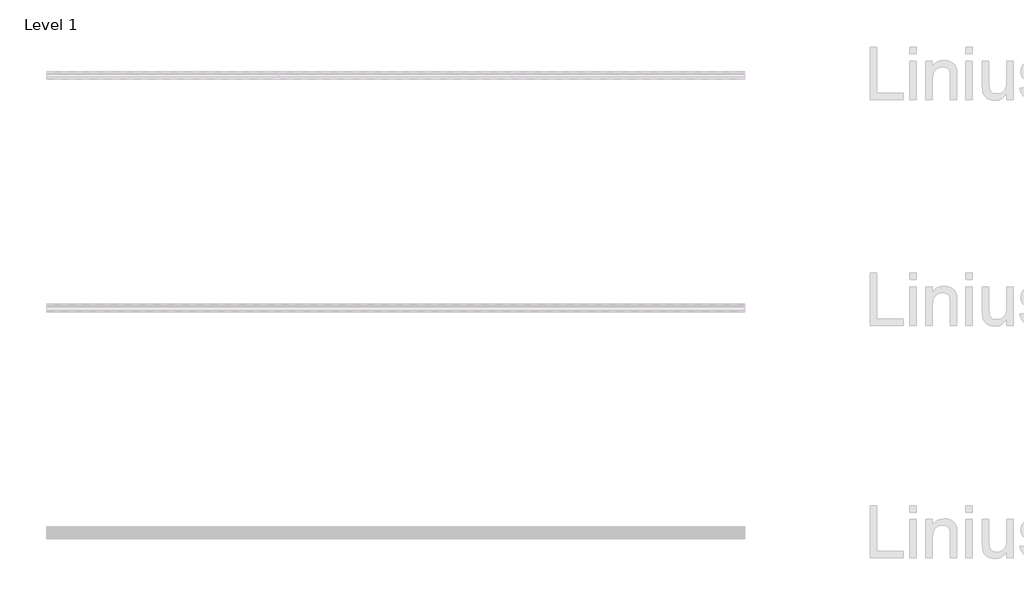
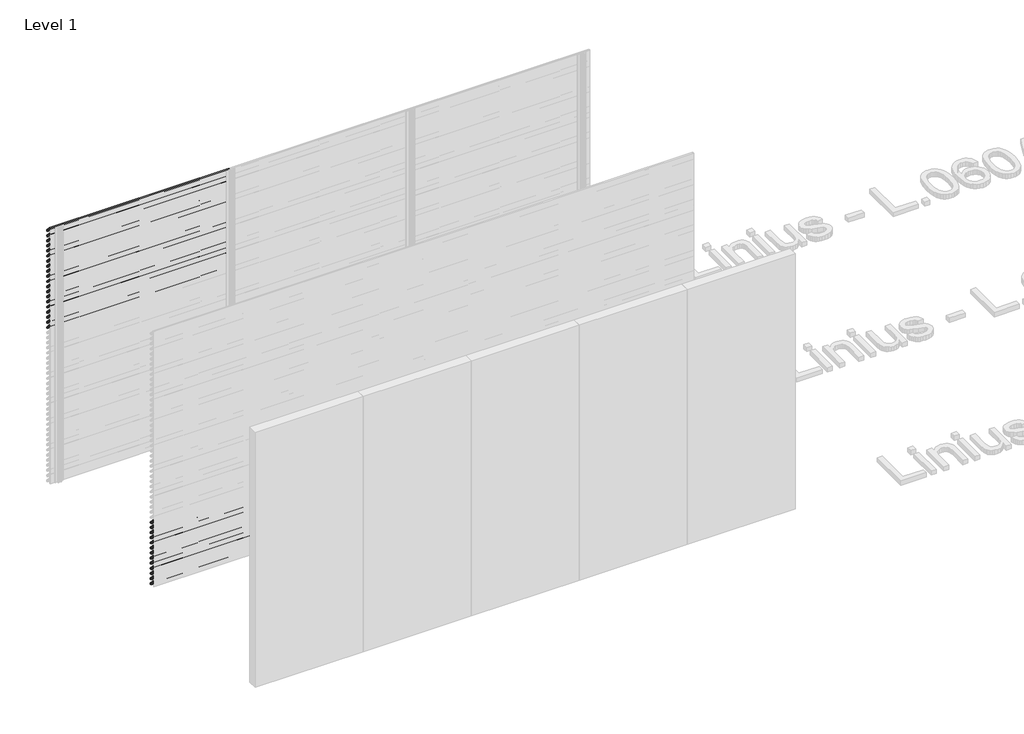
# One storey, part 33 of 153: 33 proxies.
"""IFC4 building model written with IfcOpenShell, lengths in millimetres."""

from ifc_helpers import new_model, si_unit, point, frame, frame_2d, origin, place, context, project, spatial, polyline, circle_curve, trimmed, segment, composite_curve, outline, extrude, element, save

model = new_model("IFC4")

# Units and contexts
model_context = context("Model", 3, world=origin())
ifc_project = project(units=[si_unit("LENGTHUNIT", "METRE", prefix="MILLI")], contexts=[model_context])

# Site, building, storey
site = spatial("IfcSite", under=ifc_project)
building = spatial("IfcBuilding", under=site)
storey = spatial("IfcBuildingStorey", under=building, Name="Level 1", Elevation=0.0)

# Proxies
placement = place(None, origin())
element("IfcBuildingElementProxy", 1, Name="Wall Sweeps", at=placement, inside=storey, context=model_context, shape_type="SweptSolid", body=[
    extrude(outline(composite_curve([segment(polyline([(6989.0270068, 3000.0), (7003.8471842, 2998.7034025), (7053.0270068, 2945.0102749), (7053.0270068, 2933.6108187)]), True, "CONTINUOUS"), segment(trimmed(circle_curve(frame_2d((7049.7613584, 2933.897153)), 3.2781774), [point((7053.0270068, 2933.6108187))], [point((7050.4369373, 2930.6893438))], False, "CARTESIAN"), True, "CONTINUOUS"), segment(polyline([(7050.4369373, 2930.6893438), (7038.1625655, 2931.6282758), (6989.0270068, 2985.2730773), (6989.0270068, 3000.0)]), True, "CONTINUOUS")], self_intersect=False), holes=[composite_curve([segment(polyline([(7003.1351705, 2997.2599659), (6990.5270068, 2998.3630372), (6990.5270068, 2985.856213), (7038.8681968, 2933.0786805), (7050.3042474, 2932.2038762)]), True, "CONTINUOUS"), segment(trimmed(circle_curve(frame_2d((7049.7613584, 2933.897153)), 1.7781774), [point((7050.3042474, 2932.2038762))], [point((7051.5270068, 2933.6864389))], True, "CARTESIAN"), True, "CONTINUOUS"), segment(polyline([(7051.5270068, 2933.6864389), (7051.5270068, 2944.4271392), (7003.1351705, 2997.2599659)]), True, "CONTINUOUS")], self_intersect=False)]), frame((44966.6208097, 0.0, 0.0), z_axis=(1.0, 0.0, 0.0), x_axis=(0.0, 1.0, 0.0)), (0.0, 0.0, 1.0), 2000.0000001),
])
element("IfcBuildingElementProxy", 2, Name="Wall Sweeps", at=placement, inside=storey, context=model_context, shape_type="SweptSolid", body=[
    extrude(outline(composite_curve([segment(polyline([(6989.0270068, 2940.0), (7003.8471842, 2938.7034025), (7053.0270068, 2885.0102749), (7053.0270068, 2873.6108187)]), True, "CONTINUOUS"), segment(trimmed(circle_curve(frame_2d((7049.7613584, 2873.897153)), 3.2781774), [point((7053.0270068, 2873.6108187))], [point((7050.4369373, 2870.6893438))], False, "CARTESIAN"), True, "CONTINUOUS"), segment(polyline([(7050.4369373, 2870.6893438), (7038.1625655, 2871.6282758), (6989.0270068, 2925.2730773), (6989.0270068, 2940.0)]), True, "CONTINUOUS")], self_intersect=False), holes=[composite_curve([segment(polyline([(7003.1351705, 2937.2599659), (6990.5270068, 2938.3630372), (6990.5270068, 2925.856213), (7038.8681968, 2873.0786805), (7050.3042474, 2872.2038762)]), True, "CONTINUOUS"), segment(trimmed(circle_curve(frame_2d((7049.7613584, 2873.897153)), 1.7781774), [point((7050.3042474, 2872.2038762))], [point((7051.5270068, 2873.6864389))], True, "CARTESIAN"), True, "CONTINUOUS"), segment(polyline([(7051.5270068, 2873.6864389), (7051.5270068, 2884.4271392), (7003.1351705, 2937.2599659)]), True, "CONTINUOUS")], self_intersect=False)]), frame((44966.6208097, 0.0, 0.0), z_axis=(1.0, 0.0, 0.0), x_axis=(0.0, 1.0, 0.0)), (0.0, 0.0, 1.0), 2000.0000001),
])
element("IfcBuildingElementProxy", 3, Name="Wall Sweeps", at=placement, inside=storey, context=model_context, shape_type="SweptSolid", body=[
    extrude(outline(composite_curve([segment(polyline([(6989.0270068, 2880.0), (7003.8471842, 2878.7034025), (7053.0270068, 2825.0102749), (7053.0270068, 2813.6108187)]), True, "CONTINUOUS"), segment(trimmed(circle_curve(frame_2d((7049.7613584, 2813.897153)), 3.2781774), [point((7053.0270068, 2813.6108187))], [point((7050.4369373, 2810.6893438))], False, "CARTESIAN"), True, "CONTINUOUS"), segment(polyline([(7050.4369373, 2810.6893438), (7038.1625655, 2811.6282758), (6989.0270068, 2865.2730773), (6989.0270068, 2880.0)]), True, "CONTINUOUS")], self_intersect=False), holes=[composite_curve([segment(polyline([(7003.1351705, 2877.2599659), (6990.5270068, 2878.3630372), (6990.5270068, 2865.856213), (7038.8681968, 2813.0786805), (7050.3042474, 2812.2038762)]), True, "CONTINUOUS"), segment(trimmed(circle_curve(frame_2d((7049.7613584, 2813.897153)), 1.7781774), [point((7050.3042474, 2812.2038762))], [point((7051.5270068, 2813.6864389))], True, "CARTESIAN"), True, "CONTINUOUS"), segment(polyline([(7051.5270068, 2813.6864389), (7051.5270068, 2824.4271392), (7003.1351705, 2877.2599659)]), True, "CONTINUOUS")], self_intersect=False)]), frame((44966.6208097, 0.0, 0.0), z_axis=(1.0, 0.0, 0.0), x_axis=(0.0, 1.0, 0.0)), (0.0, 0.0, 1.0), 2000.0000001),
])
element("IfcBuildingElementProxy", 4, Name="Wall Sweeps", at=placement, inside=storey, context=model_context, shape_type="SweptSolid", body=[
    extrude(outline(composite_curve([segment(polyline([(6989.0270068, 2820.0), (7003.8471842, 2818.7034025), (7053.0270068, 2765.0102749), (7053.0270068, 2753.6108187)]), True, "CONTINUOUS"), segment(trimmed(circle_curve(frame_2d((7049.7613584, 2753.897153)), 3.2781774), [point((7053.0270068, 2753.6108187))], [point((7050.4369373, 2750.6893438))], False, "CARTESIAN"), True, "CONTINUOUS"), segment(polyline([(7050.4369373, 2750.6893438), (7038.1625655, 2751.6282758), (6989.0270068, 2805.2730773), (6989.0270068, 2820.0)]), True, "CONTINUOUS")], self_intersect=False), holes=[composite_curve([segment(polyline([(7003.1351705, 2817.2599659), (6990.5270068, 2818.3630372), (6990.5270068, 2805.856213), (7038.8681968, 2753.0786805), (7050.3042474, 2752.2038762)]), True, "CONTINUOUS"), segment(trimmed(circle_curve(frame_2d((7049.7613584, 2753.897153)), 1.7781774), [point((7050.3042474, 2752.2038762))], [point((7051.5270068, 2753.6864389))], True, "CARTESIAN"), True, "CONTINUOUS"), segment(polyline([(7051.5270068, 2753.6864389), (7051.5270068, 2764.4271392), (7003.1351705, 2817.2599659)]), True, "CONTINUOUS")], self_intersect=False)]), frame((44966.6208097, 0.0, 0.0), z_axis=(1.0, 0.0, 0.0), x_axis=(0.0, 1.0, 0.0)), (0.0, 0.0, 1.0), 2000.0000001),
])
element("IfcBuildingElementProxy", 5, Name="Wall Sweeps", at=placement, inside=storey, context=model_context, shape_type="SweptSolid", body=[
    extrude(outline(composite_curve([segment(polyline([(6989.0270068, 2760.0), (7003.8471842, 2758.7034025), (7053.0270068, 2705.0102749), (7053.0270068, 2693.6108187)]), True, "CONTINUOUS"), segment(trimmed(circle_curve(frame_2d((7049.7613584, 2693.897153)), 3.2781774), [point((7053.0270068, 2693.6108187))], [point((7050.4369373, 2690.6893438))], False, "CARTESIAN"), True, "CONTINUOUS"), segment(polyline([(7050.4369373, 2690.6893438), (7038.1625655, 2691.6282758), (6989.0270068, 2745.2730773), (6989.0270068, 2760.0)]), True, "CONTINUOUS")], self_intersect=False), holes=[composite_curve([segment(polyline([(7003.1351705, 2757.2599659), (6990.5270068, 2758.3630372), (6990.5270068, 2745.856213), (7038.8681968, 2693.0786805), (7050.3042474, 2692.2038762)]), True, "CONTINUOUS"), segment(trimmed(circle_curve(frame_2d((7049.7613584, 2693.897153)), 1.7781774), [point((7050.3042474, 2692.2038762))], [point((7051.5270068, 2693.6864389))], True, "CARTESIAN"), True, "CONTINUOUS"), segment(polyline([(7051.5270068, 2693.6864389), (7051.5270068, 2704.4271392), (7003.1351705, 2757.2599659)]), True, "CONTINUOUS")], self_intersect=False)]), frame((44966.6208097, 0.0, 0.0), z_axis=(1.0, 0.0, 0.0), x_axis=(0.0, 1.0, 0.0)), (0.0, 0.0, 1.0), 2000.0000001),
])
element("IfcBuildingElementProxy", 6, Name="Wall Sweeps", at=placement, inside=storey, context=model_context, shape_type="SweptSolid", body=[
    extrude(outline(composite_curve([segment(polyline([(6989.0270068, 2700.0), (7003.8471842, 2698.7034025), (7053.0270068, 2645.0102749), (7053.0270068, 2633.6108187)]), True, "CONTINUOUS"), segment(trimmed(circle_curve(frame_2d((7049.7613584, 2633.897153)), 3.2781774), [point((7053.0270068, 2633.6108187))], [point((7050.4369373, 2630.6893438))], False, "CARTESIAN"), True, "CONTINUOUS"), segment(polyline([(7050.4369373, 2630.6893438), (7038.1625655, 2631.6282758), (6989.0270068, 2685.2730773), (6989.0270068, 2700.0)]), True, "CONTINUOUS")], self_intersect=False), holes=[composite_curve([segment(polyline([(7003.1351705, 2697.2599659), (6990.5270068, 2698.3630372), (6990.5270068, 2685.856213), (7038.8681968, 2633.0786805), (7050.3042474, 2632.2038762)]), True, "CONTINUOUS"), segment(trimmed(circle_curve(frame_2d((7049.7613584, 2633.897153)), 1.7781774), [point((7050.3042474, 2632.2038762))], [point((7051.5270068, 2633.6864389))], True, "CARTESIAN"), True, "CONTINUOUS"), segment(polyline([(7051.5270068, 2633.6864389), (7051.5270068, 2644.4271392), (7003.1351705, 2697.2599659)]), True, "CONTINUOUS")], self_intersect=False)]), frame((44966.6208097, 0.0, 0.0), z_axis=(1.0, 0.0, 0.0), x_axis=(0.0, 1.0, 0.0)), (0.0, 0.0, 1.0), 2000.0000001),
])
element("IfcBuildingElementProxy", 7, Name="Wall Sweeps", at=placement, inside=storey, context=model_context, shape_type="SweptSolid", body=[
    extrude(outline(composite_curve([segment(polyline([(6989.0270068, 2640.0), (7003.8471842, 2638.7034025), (7053.0270068, 2585.0102749), (7053.0270068, 2573.6108187)]), True, "CONTINUOUS"), segment(trimmed(circle_curve(frame_2d((7049.7613584, 2573.897153)), 3.2781774), [point((7053.0270068, 2573.6108187))], [point((7050.4369373, 2570.6893438))], False, "CARTESIAN"), True, "CONTINUOUS"), segment(polyline([(7050.4369373, 2570.6893438), (7038.1625655, 2571.6282758), (6989.0270068, 2625.2730773), (6989.0270068, 2640.0)]), True, "CONTINUOUS")], self_intersect=False), holes=[composite_curve([segment(polyline([(7003.1351705, 2637.2599659), (6990.5270068, 2638.3630372), (6990.5270068, 2625.856213), (7038.8681968, 2573.0786805), (7050.3042474, 2572.2038762)]), True, "CONTINUOUS"), segment(trimmed(circle_curve(frame_2d((7049.7613584, 2573.897153)), 1.7781774), [point((7050.3042474, 2572.2038762))], [point((7051.5270068, 2573.6864389))], True, "CARTESIAN"), True, "CONTINUOUS"), segment(polyline([(7051.5270068, 2573.6864389), (7051.5270068, 2584.4271392), (7003.1351705, 2637.2599659)]), True, "CONTINUOUS")], self_intersect=False)]), frame((44966.6208097, 0.0, 0.0), z_axis=(1.0, 0.0, 0.0), x_axis=(0.0, 1.0, 0.0)), (0.0, 0.0, 1.0), 2000.0000001),
])
element("IfcBuildingElementProxy", 8, Name="Wall Sweeps", at=placement, inside=storey, context=model_context, shape_type="SweptSolid", body=[
    extrude(outline(composite_curve([segment(polyline([(6989.0270068, 2580.0), (7003.8471842, 2578.7034025), (7053.0270068, 2525.0102749), (7053.0270068, 2513.6108187)]), True, "CONTINUOUS"), segment(trimmed(circle_curve(frame_2d((7049.7613584, 2513.897153)), 3.2781774), [point((7053.0270068, 2513.6108187))], [point((7050.4369373, 2510.6893438))], False, "CARTESIAN"), True, "CONTINUOUS"), segment(polyline([(7050.4369373, 2510.6893438), (7038.1625655, 2511.6282758), (6989.0270068, 2565.2730773), (6989.0270068, 2580.0)]), True, "CONTINUOUS")], self_intersect=False), holes=[composite_curve([segment(polyline([(7003.1351705, 2577.2599659), (6990.5270068, 2578.3630372), (6990.5270068, 2565.856213), (7038.8681968, 2513.0786805), (7050.3042474, 2512.2038762)]), True, "CONTINUOUS"), segment(trimmed(circle_curve(frame_2d((7049.7613584, 2513.897153)), 1.7781774), [point((7050.3042474, 2512.2038762))], [point((7051.5270068, 2513.6864389))], True, "CARTESIAN"), True, "CONTINUOUS"), segment(polyline([(7051.5270068, 2513.6864389), (7051.5270068, 2524.4271392), (7003.1351705, 2577.2599659)]), True, "CONTINUOUS")], self_intersect=False)]), frame((44966.6208097, 0.0, 0.0), z_axis=(1.0, 0.0, 0.0), x_axis=(0.0, 1.0, 0.0)), (0.0, 0.0, 1.0), 2000.0000001),
])
element("IfcBuildingElementProxy", 9, Name="Wall Sweeps", at=placement, inside=storey, context=model_context, shape_type="SweptSolid", body=[
    extrude(outline(composite_curve([segment(polyline([(6989.0270068, 2520.0), (7003.8471842, 2518.7034025), (7053.0270068, 2465.0102749), (7053.0270068, 2453.6108187)]), True, "CONTINUOUS"), segment(trimmed(circle_curve(frame_2d((7049.7613584, 2453.897153)), 3.2781774), [point((7053.0270068, 2453.6108187))], [point((7050.4369373, 2450.6893438))], False, "CARTESIAN"), True, "CONTINUOUS"), segment(polyline([(7050.4369373, 2450.6893438), (7038.1625655, 2451.6282758), (6989.0270068, 2505.2730773), (6989.0270068, 2520.0)]), True, "CONTINUOUS")], self_intersect=False), holes=[composite_curve([segment(polyline([(7003.1351705, 2517.2599659), (6990.5270068, 2518.3630372), (6990.5270068, 2505.856213), (7038.8681968, 2453.0786805), (7050.3042474, 2452.2038762)]), True, "CONTINUOUS"), segment(trimmed(circle_curve(frame_2d((7049.7613584, 2453.897153)), 1.7781774), [point((7050.3042474, 2452.2038762))], [point((7051.5270068, 2453.6864389))], True, "CARTESIAN"), True, "CONTINUOUS"), segment(polyline([(7051.5270068, 2453.6864389), (7051.5270068, 2464.4271392), (7003.1351705, 2517.2599659)]), True, "CONTINUOUS")], self_intersect=False)]), frame((44966.6208097, 0.0, 0.0), z_axis=(1.0, 0.0, 0.0), x_axis=(0.0, 1.0, 0.0)), (0.0, 0.0, 1.0), 2000.0000001),
])
element("IfcBuildingElementProxy", 10, Name="Wall Sweeps", at=placement, inside=storey, context=model_context, shape_type="SweptSolid", body=[
    extrude(outline(composite_curve([segment(polyline([(6989.0270068, 2460.0), (7003.8471842, 2458.7034025), (7053.0270068, 2405.0102749), (7053.0270068, 2393.6108187)]), True, "CONTINUOUS"), segment(trimmed(circle_curve(frame_2d((7049.7613584, 2393.897153)), 3.2781774), [point((7053.0270068, 2393.6108187))], [point((7050.4369373, 2390.6893438))], False, "CARTESIAN"), True, "CONTINUOUS"), segment(polyline([(7050.4369373, 2390.6893438), (7038.1625655, 2391.6282758), (6989.0270068, 2445.2730773), (6989.0270068, 2460.0)]), True, "CONTINUOUS")], self_intersect=False), holes=[composite_curve([segment(polyline([(7003.1351705, 2457.2599659), (6990.5270068, 2458.3630372), (6990.5270068, 2445.856213), (7038.8681968, 2393.0786805), (7050.3042474, 2392.2038762)]), True, "CONTINUOUS"), segment(trimmed(circle_curve(frame_2d((7049.7613584, 2393.897153)), 1.7781774), [point((7050.3042474, 2392.2038762))], [point((7051.5270068, 2393.6864389))], True, "CARTESIAN"), True, "CONTINUOUS"), segment(polyline([(7051.5270068, 2393.6864389), (7051.5270068, 2404.4271392), (7003.1351705, 2457.2599659)]), True, "CONTINUOUS")], self_intersect=False)]), frame((44966.6208097, 0.0, 0.0), z_axis=(1.0, 0.0, 0.0), x_axis=(0.0, 1.0, 0.0)), (0.0, 0.0, 1.0), 2000.0000001),
])
element("IfcBuildingElementProxy", 11, Name="Wall Sweeps", at=placement, inside=storey, context=model_context, shape_type="SweptSolid", body=[
    extrude(outline(composite_curve([segment(polyline([(6989.0270068, 2400.0), (7003.8471842, 2398.7034025), (7053.0270068, 2345.0102749), (7053.0270068, 2333.6108187)]), True, "CONTINUOUS"), segment(trimmed(circle_curve(frame_2d((7049.7613584, 2333.897153)), 3.2781774), [point((7053.0270068, 2333.6108187))], [point((7050.4369373, 2330.6893438))], False, "CARTESIAN"), True, "CONTINUOUS"), segment(polyline([(7050.4369373, 2330.6893438), (7038.1625655, 2331.6282758), (6989.0270068, 2385.2730773), (6989.0270068, 2400.0)]), True, "CONTINUOUS")], self_intersect=False), holes=[composite_curve([segment(polyline([(7003.1351705, 2397.2599659), (6990.5270068, 2398.3630372), (6990.5270068, 2385.856213), (7038.8681968, 2333.0786805), (7050.3042474, 2332.2038762)]), True, "CONTINUOUS"), segment(trimmed(circle_curve(frame_2d((7049.7613584, 2333.897153)), 1.7781774), [point((7050.3042474, 2332.2038762))], [point((7051.5270068, 2333.6864389))], True, "CARTESIAN"), True, "CONTINUOUS"), segment(polyline([(7051.5270068, 2333.6864389), (7051.5270068, 2344.4271392), (7003.1351705, 2397.2599659)]), True, "CONTINUOUS")], self_intersect=False)]), frame((44966.6208097, 0.0, 0.0), z_axis=(1.0, 0.0, 0.0), x_axis=(0.0, 1.0, 0.0)), (0.0, 0.0, 1.0), 2000.0000001),
])
element("IfcBuildingElementProxy", 12, Name="Wall Sweeps", at=placement, inside=storey, context=model_context, shape_type="SweptSolid", body=[
    extrude(outline(composite_curve([segment(polyline([(6989.0270068, 2340.0), (7003.8471842, 2338.7034025), (7053.0270068, 2285.0102749), (7053.0270068, 2273.6108187)]), True, "CONTINUOUS"), segment(trimmed(circle_curve(frame_2d((7049.7613584, 2273.897153)), 3.2781774), [point((7053.0270068, 2273.6108187))], [point((7050.4369373, 2270.6893438))], False, "CARTESIAN"), True, "CONTINUOUS"), segment(polyline([(7050.4369373, 2270.6893438), (7038.1625655, 2271.6282758), (6989.0270068, 2325.2730773), (6989.0270068, 2340.0)]), True, "CONTINUOUS")], self_intersect=False), holes=[composite_curve([segment(polyline([(7003.1351705, 2337.2599659), (6990.5270068, 2338.3630372), (6990.5270068, 2325.856213), (7038.8681968, 2273.0786805), (7050.3042474, 2272.2038762)]), True, "CONTINUOUS"), segment(trimmed(circle_curve(frame_2d((7049.7613584, 2273.897153)), 1.7781774), [point((7050.3042474, 2272.2038762))], [point((7051.5270068, 2273.6864389))], True, "CARTESIAN"), True, "CONTINUOUS"), segment(polyline([(7051.5270068, 2273.6864389), (7051.5270068, 2284.4271392), (7003.1351705, 2337.2599659)]), True, "CONTINUOUS")], self_intersect=False)]), frame((44966.6208097, 0.0, 0.0), z_axis=(1.0, 0.0, 0.0), x_axis=(0.0, 1.0, 0.0)), (0.0, 0.0, 1.0), 2000.0000001),
])
element("IfcBuildingElementProxy", 13, Name="Wall Sweeps", at=placement, inside=storey, context=model_context, shape_type="SweptSolid", body=[
    extrude(outline(composite_curve([segment(polyline([(6989.0270068, 2280.0), (7003.8471842, 2278.7034025), (7053.0270068, 2225.0102749), (7053.0270068, 2213.6108187)]), True, "CONTINUOUS"), segment(trimmed(circle_curve(frame_2d((7049.7613584, 2213.897153)), 3.2781774), [point((7053.0270068, 2213.6108187))], [point((7050.4369373, 2210.6893438))], False, "CARTESIAN"), True, "CONTINUOUS"), segment(polyline([(7050.4369373, 2210.6893438), (7038.1625655, 2211.6282758), (6989.0270068, 2265.2730773), (6989.0270068, 2280.0)]), True, "CONTINUOUS")], self_intersect=False), holes=[composite_curve([segment(polyline([(7003.1351705, 2277.2599659), (6990.5270068, 2278.3630372), (6990.5270068, 2265.856213), (7038.8681968, 2213.0786805), (7050.3042474, 2212.2038762)]), True, "CONTINUOUS"), segment(trimmed(circle_curve(frame_2d((7049.7613584, 2213.897153)), 1.7781774), [point((7050.3042474, 2212.2038762))], [point((7051.5270068, 2213.6864389))], True, "CARTESIAN"), True, "CONTINUOUS"), segment(polyline([(7051.5270068, 2213.6864389), (7051.5270068, 2224.4271392), (7003.1351705, 2277.2599659)]), True, "CONTINUOUS")], self_intersect=False)]), frame((44966.6208097, 0.0, 0.0), z_axis=(1.0, 0.0, 0.0), x_axis=(0.0, 1.0, 0.0)), (0.0, 0.0, 1.0), 2000.0000001),
])
element("IfcBuildingElementProxy", 14, Name="Wall Sweeps", at=placement, inside=storey, context=model_context, shape_type="SweptSolid", body=[
    extrude(outline(composite_curve([segment(polyline([(6989.0270068, 2220.0), (7003.8471842, 2218.7034025), (7053.0270068, 2165.0102749), (7053.0270068, 2153.6108187)]), True, "CONTINUOUS"), segment(trimmed(circle_curve(frame_2d((7049.7613584, 2153.897153)), 3.2781774), [point((7053.0270068, 2153.6108187))], [point((7050.4369373, 2150.6893438))], False, "CARTESIAN"), True, "CONTINUOUS"), segment(polyline([(7050.4369373, 2150.6893438), (7038.1625655, 2151.6282758), (6989.0270068, 2205.2730773), (6989.0270068, 2220.0)]), True, "CONTINUOUS")], self_intersect=False), holes=[composite_curve([segment(polyline([(7003.1351705, 2217.2599659), (6990.5270068, 2218.3630372), (6990.5270068, 2205.856213), (7038.8681968, 2153.0786805), (7050.3042474, 2152.2038762)]), True, "CONTINUOUS"), segment(trimmed(circle_curve(frame_2d((7049.7613584, 2153.897153)), 1.7781774), [point((7050.3042474, 2152.2038762))], [point((7051.5270068, 2153.6864389))], True, "CARTESIAN"), True, "CONTINUOUS"), segment(polyline([(7051.5270068, 2153.6864389), (7051.5270068, 2164.4271392), (7003.1351705, 2217.2599659)]), True, "CONTINUOUS")], self_intersect=False)]), frame((44966.6208097, 0.0, 0.0), z_axis=(1.0, 0.0, 0.0), x_axis=(0.0, 1.0, 0.0)), (0.0, 0.0, 1.0), 2000.0000001),
])
element("IfcBuildingElementProxy", 15, Name="Wall Sweeps", at=placement, inside=storey, context=model_context, shape_type="SweptSolid", body=[
    extrude(outline(composite_curve([segment(polyline([(6989.0270068, 2160.0), (7003.8471842, 2158.7034025), (7053.0270068, 2105.0102749), (7053.0270068, 2093.6108187)]), True, "CONTINUOUS"), segment(trimmed(circle_curve(frame_2d((7049.7613584, 2093.897153)), 3.2781774), [point((7053.0270068, 2093.6108187))], [point((7050.4369373, 2090.6893438))], False, "CARTESIAN"), True, "CONTINUOUS"), segment(polyline([(7050.4369373, 2090.6893438), (7038.1625655, 2091.6282758), (6989.0270068, 2145.2730773), (6989.0270068, 2160.0)]), True, "CONTINUOUS")], self_intersect=False), holes=[composite_curve([segment(polyline([(7003.1351705, 2157.2599659), (6990.5270068, 2158.3630372), (6990.5270068, 2145.856213), (7038.8681968, 2093.0786805), (7050.3042474, 2092.2038762)]), True, "CONTINUOUS"), segment(trimmed(circle_curve(frame_2d((7049.7613584, 2093.897153)), 1.7781774), [point((7050.3042474, 2092.2038762))], [point((7051.5270068, 2093.6864389))], True, "CARTESIAN"), True, "CONTINUOUS"), segment(polyline([(7051.5270068, 2093.6864389), (7051.5270068, 2104.4271392), (7003.1351705, 2157.2599659)]), True, "CONTINUOUS")], self_intersect=False)]), frame((44966.6208097, 0.0, 0.0), z_axis=(1.0, 0.0, 0.0), x_axis=(0.0, 1.0, 0.0)), (0.0, 0.0, 1.0), 2000.0000001),
])
element("IfcBuildingElementProxy", 16, Name="Wall Sweeps", at=placement, inside=storey, context=model_context, shape_type="SweptSolid", body=[
    extrude(outline(composite_curve([segment(polyline([(6989.0270068, 2100.0), (7003.8471842, 2098.7034025), (7053.0270068, 2045.0102749), (7053.0270068, 2033.6108187)]), True, "CONTINUOUS"), segment(trimmed(circle_curve(frame_2d((7049.7613584, 2033.897153)), 3.2781774), [point((7053.0270068, 2033.6108187))], [point((7050.4369373, 2030.6893438))], False, "CARTESIAN"), True, "CONTINUOUS"), segment(polyline([(7050.4369373, 2030.6893438), (7038.1625655, 2031.6282758), (6989.0270068, 2085.2730773), (6989.0270068, 2100.0)]), True, "CONTINUOUS")], self_intersect=False), holes=[composite_curve([segment(polyline([(7003.1351705, 2097.2599659), (6990.5270068, 2098.3630372), (6990.5270068, 2085.856213), (7038.8681968, 2033.0786805), (7050.3042474, 2032.2038762)]), True, "CONTINUOUS"), segment(trimmed(circle_curve(frame_2d((7049.7613584, 2033.897153)), 1.7781774), [point((7050.3042474, 2032.2038762))], [point((7051.5270068, 2033.6864389))], True, "CARTESIAN"), True, "CONTINUOUS"), segment(polyline([(7051.5270068, 2033.6864389), (7051.5270068, 2044.4271392), (7003.1351705, 2097.2599659)]), True, "CONTINUOUS")], self_intersect=False)]), frame((44966.6208097, 0.0, 0.0), z_axis=(1.0, 0.0, 0.0), x_axis=(0.0, 1.0, 0.0)), (0.0, 0.0, 1.0), 2000.0000001),
])
element("IfcBuildingElementProxy", 17, Name="Wall Sweeps", at=placement, inside=storey, context=model_context, shape_type="SweptSolid", body=[
    extrude(outline(composite_curve([segment(polyline([(6989.0270068, 2040.0), (7003.8471842, 2038.7034025), (7053.0270068, 1985.0102749), (7053.0270068, 1973.6108187)]), True, "CONTINUOUS"), segment(trimmed(circle_curve(frame_2d((7049.7613584, 1973.897153)), 3.2781774), [point((7053.0270068, 1973.6108187))], [point((7050.4369373, 1970.6893438))], False, "CARTESIAN"), True, "CONTINUOUS"), segment(polyline([(7050.4369373, 1970.6893438), (7038.1625655, 1971.6282758), (6989.0270068, 2025.2730773), (6989.0270068, 2040.0)]), True, "CONTINUOUS")], self_intersect=False), holes=[composite_curve([segment(polyline([(7003.1351705, 2037.2599659), (6990.5270068, 2038.3630372), (6990.5270068, 2025.856213), (7038.8681968, 1973.0786805), (7050.3042474, 1972.2038762)]), True, "CONTINUOUS"), segment(trimmed(circle_curve(frame_2d((7049.7613584, 1973.897153)), 1.7781774), [point((7050.3042474, 1972.2038762))], [point((7051.5270068, 1973.6864389))], True, "CARTESIAN"), True, "CONTINUOUS"), segment(polyline([(7051.5270068, 1973.6864389), (7051.5270068, 1984.4271392), (7003.1351705, 2037.2599659)]), True, "CONTINUOUS")], self_intersect=False)]), frame((44966.6208097, 0.0, 0.0), z_axis=(1.0, 0.0, 0.0), x_axis=(0.0, 1.0, 0.0)), (0.0, 0.0, 1.0), 2000.0000001),
])
element("IfcBuildingElementProxy", 18, Name="Wall Sweeps", at=placement, inside=storey, context=model_context, shape_type="SweptSolid", body=[
    extrude(outline(composite_curve([segment(polyline([(6989.0270068, 1980.0), (7003.8471842, 1978.7034025), (7053.0270068, 1925.0102749), (7053.0270068, 1913.6108187)]), True, "CONTINUOUS"), segment(trimmed(circle_curve(frame_2d((7049.7613584, 1913.897153)), 3.2781774), [point((7053.0270068, 1913.6108187))], [point((7050.4369373, 1910.6893438))], False, "CARTESIAN"), True, "CONTINUOUS"), segment(polyline([(7050.4369373, 1910.6893438), (7038.1625655, 1911.6282758), (6989.0270068, 1965.2730773), (6989.0270068, 1980.0)]), True, "CONTINUOUS")], self_intersect=False), holes=[composite_curve([segment(polyline([(7003.1351705, 1977.2599659), (6990.5270068, 1978.3630372), (6990.5270068, 1965.856213), (7038.8681968, 1913.0786805), (7050.3042474, 1912.2038762)]), True, "CONTINUOUS"), segment(trimmed(circle_curve(frame_2d((7049.7613584, 1913.897153)), 1.7781774), [point((7050.3042474, 1912.2038762))], [point((7051.5270068, 1913.6864389))], True, "CARTESIAN"), True, "CONTINUOUS"), segment(polyline([(7051.5270068, 1913.6864389), (7051.5270068, 1924.4271392), (7003.1351705, 1977.2599659)]), True, "CONTINUOUS")], self_intersect=False)]), frame((44966.6208097, 0.0, 0.0), z_axis=(1.0, 0.0, 0.0), x_axis=(0.0, 1.0, 0.0)), (0.0, 0.0, 1.0), 2000.0000001),
])
element("IfcBuildingElementProxy", 19, Name="Wall Sweeps", at=placement, inside=storey, context=model_context, shape_type="SweptSolid", body=[
    extrude(outline(composite_curve([segment(polyline([(6989.0270068, 1920.0), (7003.8471842, 1918.7034025), (7053.0270068, 1865.0102749), (7053.0270068, 1853.6108187)]), True, "CONTINUOUS"), segment(trimmed(circle_curve(frame_2d((7049.7613584, 1853.897153)), 3.2781774), [point((7053.0270068, 1853.6108187))], [point((7050.4369373, 1850.6893438))], False, "CARTESIAN"), True, "CONTINUOUS"), segment(polyline([(7050.4369373, 1850.6893438), (7038.1625655, 1851.6282758), (6989.0270068, 1905.2730773), (6989.0270068, 1920.0)]), True, "CONTINUOUS")], self_intersect=False), holes=[composite_curve([segment(polyline([(7003.1351705, 1917.2599659), (6990.5270068, 1918.3630372), (6990.5270068, 1905.856213), (7038.8681968, 1853.0786805), (7050.3042474, 1852.2038762)]), True, "CONTINUOUS"), segment(trimmed(circle_curve(frame_2d((7049.7613584, 1853.897153)), 1.7781774), [point((7050.3042474, 1852.2038762))], [point((7051.5270068, 1853.6864389))], True, "CARTESIAN"), True, "CONTINUOUS"), segment(polyline([(7051.5270068, 1853.6864389), (7051.5270068, 1864.4271392), (7003.1351705, 1917.2599659)]), True, "CONTINUOUS")], self_intersect=False)]), frame((44966.6208097, 0.0, 0.0), z_axis=(1.0, 0.0, 0.0), x_axis=(0.0, 1.0, 0.0)), (0.0, 0.0, 1.0), 2000.0000001),
])
element("IfcBuildingElementProxy", 20, Name="Wall Sweeps", at=placement, inside=storey, context=model_context, shape_type="SweptSolid", body=[
    extrude(outline(composite_curve([segment(polyline([(6989.0270068, 1860.0), (7003.8471842, 1858.7034025), (7053.0270068, 1805.0102749), (7053.0270068, 1793.6108187)]), True, "CONTINUOUS"), segment(trimmed(circle_curve(frame_2d((7049.7613584, 1793.897153)), 3.2781774), [point((7053.0270068, 1793.6108187))], [point((7050.4369373, 1790.6893438))], False, "CARTESIAN"), True, "CONTINUOUS"), segment(polyline([(7050.4369373, 1790.6893438), (7038.1625655, 1791.6282758), (6989.0270068, 1845.2730773), (6989.0270068, 1860.0)]), True, "CONTINUOUS")], self_intersect=False), holes=[composite_curve([segment(polyline([(7003.1351705, 1857.2599659), (6990.5270068, 1858.3630372), (6990.5270068, 1845.856213), (7038.8681968, 1793.0786805), (7050.3042474, 1792.2038762)]), True, "CONTINUOUS"), segment(trimmed(circle_curve(frame_2d((7049.7613584, 1793.897153)), 1.7781774), [point((7050.3042474, 1792.2038762))], [point((7051.5270068, 1793.6864389))], True, "CARTESIAN"), True, "CONTINUOUS"), segment(polyline([(7051.5270068, 1793.6864389), (7051.5270068, 1804.4271392), (7003.1351705, 1857.2599659)]), True, "CONTINUOUS")], self_intersect=False)]), frame((44966.6208097, 0.0, 0.0), z_axis=(1.0, 0.0, 0.0), x_axis=(0.0, 1.0, 0.0)), (0.0, 0.0, 1.0), 2000.0000001),
])
element("IfcBuildingElementProxy", 21, Name="Wall Sweeps", at=placement, inside=storey, context=model_context, shape_type="SweptSolid", body=[
    extrude(outline(composite_curve([segment(polyline([(4989.0270068, 780.0), (5003.8471842, 778.7034025), (5053.0270068, 725.0102749), (5053.0270068, 713.6108187)]), True, "CONTINUOUS"), segment(trimmed(circle_curve(frame_2d((5049.7613584, 713.897153)), 3.2781774), [point((5053.0270068, 713.6108187))], [point((5050.4369373, 710.6893438))], False, "CARTESIAN"), True, "CONTINUOUS"), segment(polyline([(5050.4369373, 710.6893438), (5038.1625655, 711.6282758), (4989.0270068, 765.2730773), (4989.0270068, 780.0)]), True, "CONTINUOUS")], self_intersect=False), holes=[composite_curve([segment(polyline([(5003.1351705, 777.2599659), (4990.5270068, 778.3630372), (4990.5270068, 765.856213), (5038.8681968, 713.0786805), (5050.3042474, 712.2038762)]), True, "CONTINUOUS"), segment(trimmed(circle_curve(frame_2d((5049.7613584, 713.897153)), 1.7781774), [point((5050.3042474, 712.2038762))], [point((5051.5270068, 713.6864389))], True, "CARTESIAN"), True, "CONTINUOUS"), segment(polyline([(5051.5270068, 713.6864389), (5051.5270068, 724.4271392), (5003.1351705, 777.2599659)]), True, "CONTINUOUS")], self_intersect=False)]), frame((44966.6208097, 0.0, 0.0), z_axis=(1.0, 0.0, 0.0), x_axis=(0.0, 1.0, 0.0)), (0.0, 0.0, 1.0), 6000.0),
])
element("IfcBuildingElementProxy", 22, Name="Wall Sweeps", at=placement, inside=storey, context=model_context, shape_type="SweptSolid", body=[
    extrude(outline(composite_curve([segment(polyline([(4989.0270068, 720.0), (5003.8471842, 718.7034025), (5053.0270068, 665.0102749), (5053.0270068, 653.6108187)]), True, "CONTINUOUS"), segment(trimmed(circle_curve(frame_2d((5049.7613584, 653.897153)), 3.2781774), [point((5053.0270068, 653.6108187))], [point((5050.4369373, 650.6893438))], False, "CARTESIAN"), True, "CONTINUOUS"), segment(polyline([(5050.4369373, 650.6893438), (5038.1625655, 651.6282758), (4989.0270068, 705.2730773), (4989.0270068, 720.0)]), True, "CONTINUOUS")], self_intersect=False), holes=[composite_curve([segment(polyline([(5003.1351705, 717.2599659), (4990.5270068, 718.3630372), (4990.5270068, 705.856213), (5038.8681968, 653.0786805), (5050.3042474, 652.2038762)]), True, "CONTINUOUS"), segment(trimmed(circle_curve(frame_2d((5049.7613584, 653.897153)), 1.7781774), [point((5050.3042474, 652.2038762))], [point((5051.5270068, 653.6864389))], True, "CARTESIAN"), True, "CONTINUOUS"), segment(polyline([(5051.5270068, 653.6864389), (5051.5270068, 664.4271392), (5003.1351705, 717.2599659)]), True, "CONTINUOUS")], self_intersect=False)]), frame((44966.6208097, 0.0, 0.0), z_axis=(1.0, 0.0, 0.0), x_axis=(0.0, 1.0, 0.0)), (0.0, 0.0, 1.0), 6000.0),
])
element("IfcBuildingElementProxy", 23, Name="Wall Sweeps", at=placement, inside=storey, context=model_context, shape_type="SweptSolid", body=[
    extrude(outline(composite_curve([segment(polyline([(4989.0270068, 660.0), (5003.8471842, 658.7034025), (5053.0270068, 605.0102749), (5053.0270068, 593.6108187)]), True, "CONTINUOUS"), segment(trimmed(circle_curve(frame_2d((5049.7613584, 593.897153)), 3.2781774), [point((5053.0270068, 593.6108187))], [point((5050.4369373, 590.6893438))], False, "CARTESIAN"), True, "CONTINUOUS"), segment(polyline([(5050.4369373, 590.6893438), (5038.1625655, 591.6282758), (4989.0270068, 645.2730773), (4989.0270068, 660.0)]), True, "CONTINUOUS")], self_intersect=False), holes=[composite_curve([segment(polyline([(5003.1351705, 657.2599659), (4990.5270068, 658.3630372), (4990.5270068, 645.856213), (5038.8681968, 593.0786805), (5050.3042474, 592.2038762)]), True, "CONTINUOUS"), segment(trimmed(circle_curve(frame_2d((5049.7613584, 593.897153)), 1.7781774), [point((5050.3042474, 592.2038762))], [point((5051.5270068, 593.6864389))], True, "CARTESIAN"), True, "CONTINUOUS"), segment(polyline([(5051.5270068, 593.6864389), (5051.5270068, 604.4271392), (5003.1351705, 657.2599659)]), True, "CONTINUOUS")], self_intersect=False)]), frame((44966.6208097, 0.0, 0.0), z_axis=(1.0, 0.0, 0.0), x_axis=(0.0, 1.0, 0.0)), (0.0, 0.0, 1.0), 6000.0),
])
element("IfcBuildingElementProxy", 24, Name="Wall Sweeps", at=placement, inside=storey, context=model_context, shape_type="SweptSolid", body=[
    extrude(outline(composite_curve([segment(polyline([(4989.0270068, 600.0), (5003.8471842, 598.7034025), (5053.0270068, 545.0102749), (5053.0270068, 533.6108187)]), True, "CONTINUOUS"), segment(trimmed(circle_curve(frame_2d((5049.7613584, 533.897153)), 3.2781774), [point((5053.0270068, 533.6108187))], [point((5050.4369373, 530.6893438))], False, "CARTESIAN"), True, "CONTINUOUS"), segment(polyline([(5050.4369373, 530.6893438), (5038.1625655, 531.6282758), (4989.0270068, 585.2730773), (4989.0270068, 600.0)]), True, "CONTINUOUS")], self_intersect=False), holes=[composite_curve([segment(polyline([(5003.1351705, 597.2599659), (4990.5270068, 598.3630372), (4990.5270068, 585.856213), (5038.8681968, 533.0786805), (5050.3042474, 532.2038762)]), True, "CONTINUOUS"), segment(trimmed(circle_curve(frame_2d((5049.7613584, 533.897153)), 1.7781774), [point((5050.3042474, 532.2038762))], [point((5051.5270068, 533.6864389))], True, "CARTESIAN"), True, "CONTINUOUS"), segment(polyline([(5051.5270068, 533.6864389), (5051.5270068, 544.4271392), (5003.1351705, 597.2599659)]), True, "CONTINUOUS")], self_intersect=False)]), frame((44966.6208097, 0.0, 0.0), z_axis=(1.0, 0.0, 0.0), x_axis=(0.0, 1.0, 0.0)), (0.0, 0.0, 1.0), 6000.0),
])
element("IfcBuildingElementProxy", 25, Name="Wall Sweeps", at=placement, inside=storey, context=model_context, shape_type="SweptSolid", body=[
    extrude(outline(composite_curve([segment(polyline([(4989.0270068, 540.0), (5003.8471842, 538.7034025), (5053.0270068, 485.0102749), (5053.0270068, 473.6108187)]), True, "CONTINUOUS"), segment(trimmed(circle_curve(frame_2d((5049.7613584, 473.897153)), 3.2781774), [point((5053.0270068, 473.6108187))], [point((5050.4369373, 470.6893438))], False, "CARTESIAN"), True, "CONTINUOUS"), segment(polyline([(5050.4369373, 470.6893438), (5038.1625655, 471.6282758), (4989.0270068, 525.2730773), (4989.0270068, 540.0)]), True, "CONTINUOUS")], self_intersect=False), holes=[composite_curve([segment(polyline([(5003.1351705, 537.2599659), (4990.5270068, 538.3630372), (4990.5270068, 525.856213), (5038.8681968, 473.0786805), (5050.3042474, 472.2038762)]), True, "CONTINUOUS"), segment(trimmed(circle_curve(frame_2d((5049.7613584, 473.897153)), 1.7781774), [point((5050.3042474, 472.2038762))], [point((5051.5270068, 473.6864389))], True, "CARTESIAN"), True, "CONTINUOUS"), segment(polyline([(5051.5270068, 473.6864389), (5051.5270068, 484.4271392), (5003.1351705, 537.2599659)]), True, "CONTINUOUS")], self_intersect=False)]), frame((44966.6208097, 0.0, 0.0), z_axis=(1.0, 0.0, 0.0), x_axis=(0.0, 1.0, 0.0)), (0.0, 0.0, 1.0), 6000.0),
])
element("IfcBuildingElementProxy", 26, Name="Wall Sweeps", at=placement, inside=storey, context=model_context, shape_type="SweptSolid", body=[
    extrude(outline(composite_curve([segment(polyline([(4989.0270068, 480.0), (5003.8471842, 478.7034025), (5053.0270068, 425.0102749), (5053.0270068, 413.6108187)]), True, "CONTINUOUS"), segment(trimmed(circle_curve(frame_2d((5049.7613584, 413.897153)), 3.2781774), [point((5053.0270068, 413.6108187))], [point((5050.4369373, 410.6893438))], False, "CARTESIAN"), True, "CONTINUOUS"), segment(polyline([(5050.4369373, 410.6893438), (5038.1625655, 411.6282758), (4989.0270068, 465.2730773), (4989.0270068, 480.0)]), True, "CONTINUOUS")], self_intersect=False), holes=[composite_curve([segment(polyline([(5003.1351705, 477.2599659), (4990.5270068, 478.3630372), (4990.5270068, 465.856213), (5038.8681968, 413.0786805), (5050.3042474, 412.2038762)]), True, "CONTINUOUS"), segment(trimmed(circle_curve(frame_2d((5049.7613584, 413.897153)), 1.7781774), [point((5050.3042474, 412.2038762))], [point((5051.5270068, 413.6864389))], True, "CARTESIAN"), True, "CONTINUOUS"), segment(polyline([(5051.5270068, 413.6864389), (5051.5270068, 424.4271392), (5003.1351705, 477.2599659)]), True, "CONTINUOUS")], self_intersect=False)]), frame((44966.6208097, 0.0, 0.0), z_axis=(1.0, 0.0, 0.0), x_axis=(0.0, 1.0, 0.0)), (0.0, 0.0, 1.0), 6000.0),
])
element("IfcBuildingElementProxy", 27, Name="Wall Sweeps", at=placement, inside=storey, context=model_context, shape_type="SweptSolid", body=[
    extrude(outline(composite_curve([segment(polyline([(4989.0270068, 420.0), (5003.8471842, 418.7034025), (5053.0270068, 365.0102749), (5053.0270068, 353.6108187)]), True, "CONTINUOUS"), segment(trimmed(circle_curve(frame_2d((5049.7613584, 353.897153)), 3.2781774), [point((5053.0270068, 353.6108187))], [point((5050.4369373, 350.6893438))], False, "CARTESIAN"), True, "CONTINUOUS"), segment(polyline([(5050.4369373, 350.6893438), (5038.1625655, 351.6282758), (4989.0270068, 405.2730773), (4989.0270068, 420.0)]), True, "CONTINUOUS")], self_intersect=False), holes=[composite_curve([segment(polyline([(5003.1351705, 417.2599659), (4990.5270068, 418.3630372), (4990.5270068, 405.856213), (5038.8681968, 353.0786805), (5050.3042474, 352.2038762)]), True, "CONTINUOUS"), segment(trimmed(circle_curve(frame_2d((5049.7613584, 353.897153)), 1.7781774), [point((5050.3042474, 352.2038762))], [point((5051.5270068, 353.6864389))], True, "CARTESIAN"), True, "CONTINUOUS"), segment(polyline([(5051.5270068, 353.6864389), (5051.5270068, 364.4271392), (5003.1351705, 417.2599659)]), True, "CONTINUOUS")], self_intersect=False)]), frame((44966.6208097, 0.0, 0.0), z_axis=(1.0, 0.0, 0.0), x_axis=(0.0, 1.0, 0.0)), (0.0, 0.0, 1.0), 6000.0),
])
element("IfcBuildingElementProxy", 28, Name="Wall Sweeps", at=placement, inside=storey, context=model_context, shape_type="SweptSolid", body=[
    extrude(outline(composite_curve([segment(polyline([(4989.0270068, 360.0), (5003.8471842, 358.7034025), (5053.0270068, 305.0102749), (5053.0270068, 293.6108187)]), True, "CONTINUOUS"), segment(trimmed(circle_curve(frame_2d((5049.7613584, 293.897153)), 3.2781774), [point((5053.0270068, 293.6108187))], [point((5050.4369373, 290.6893438))], False, "CARTESIAN"), True, "CONTINUOUS"), segment(polyline([(5050.4369373, 290.6893438), (5038.1625655, 291.6282758), (4989.0270068, 345.2730773), (4989.0270068, 360.0)]), True, "CONTINUOUS")], self_intersect=False), holes=[composite_curve([segment(polyline([(5003.1351705, 357.2599659), (4990.5270068, 358.3630372), (4990.5270068, 345.856213), (5038.8681968, 293.0786805), (5050.3042474, 292.2038762)]), True, "CONTINUOUS"), segment(trimmed(circle_curve(frame_2d((5049.7613584, 293.897153)), 1.7781774), [point((5050.3042474, 292.2038762))], [point((5051.5270068, 293.6864389))], True, "CARTESIAN"), True, "CONTINUOUS"), segment(polyline([(5051.5270068, 293.6864389), (5051.5270068, 304.4271392), (5003.1351705, 357.2599659)]), True, "CONTINUOUS")], self_intersect=False)]), frame((44966.6208097, 0.0, 0.0), z_axis=(1.0, 0.0, 0.0), x_axis=(0.0, 1.0, 0.0)), (0.0, 0.0, 1.0), 6000.0),
])
element("IfcBuildingElementProxy", 29, Name="Wall Sweeps", at=placement, inside=storey, context=model_context, shape_type="SweptSolid", body=[
    extrude(outline(composite_curve([segment(polyline([(4989.0270068, 300.0), (5003.8471842, 298.7034025), (5053.0270068, 245.0102749), (5053.0270068, 233.6108187)]), True, "CONTINUOUS"), segment(trimmed(circle_curve(frame_2d((5049.7613584, 233.897153)), 3.2781774), [point((5053.0270068, 233.6108187))], [point((5050.4369373, 230.6893438))], False, "CARTESIAN"), True, "CONTINUOUS"), segment(polyline([(5050.4369373, 230.6893438), (5038.1625655, 231.6282758), (4989.0270068, 285.2730773), (4989.0270068, 300.0)]), True, "CONTINUOUS")], self_intersect=False), holes=[composite_curve([segment(polyline([(5003.1351705, 297.2599659), (4990.5270068, 298.3630372), (4990.5270068, 285.856213), (5038.8681968, 233.0786805), (5050.3042474, 232.2038762)]), True, "CONTINUOUS"), segment(trimmed(circle_curve(frame_2d((5049.7613584, 233.897153)), 1.7781774), [point((5050.3042474, 232.2038762))], [point((5051.5270068, 233.6864389))], True, "CARTESIAN"), True, "CONTINUOUS"), segment(polyline([(5051.5270068, 233.6864389), (5051.5270068, 244.4271392), (5003.1351705, 297.2599659)]), True, "CONTINUOUS")], self_intersect=False)]), frame((44966.6208097, 0.0, 0.0), z_axis=(1.0, 0.0, 0.0), x_axis=(0.0, 1.0, 0.0)), (0.0, 0.0, 1.0), 6000.0),
])
element("IfcBuildingElementProxy", 30, Name="Wall Sweeps", at=placement, inside=storey, context=model_context, shape_type="SweptSolid", body=[
    extrude(outline(composite_curve([segment(polyline([(4989.0270068, 240.0), (5003.8471842, 238.7034025), (5053.0270068, 185.0102749), (5053.0270068, 173.6108187)]), True, "CONTINUOUS"), segment(trimmed(circle_curve(frame_2d((5049.7613584, 173.897153)), 3.2781774), [point((5053.0270068, 173.6108187))], [point((5050.4369373, 170.6893438))], False, "CARTESIAN"), True, "CONTINUOUS"), segment(polyline([(5050.4369373, 170.6893438), (5038.1625655, 171.6282758), (4989.0270068, 225.2730773), (4989.0270068, 240.0)]), True, "CONTINUOUS")], self_intersect=False), holes=[composite_curve([segment(polyline([(5003.1351705, 237.2599659), (4990.5270068, 238.3630372), (4990.5270068, 225.856213), (5038.8681968, 173.0786805), (5050.3042474, 172.2038762)]), True, "CONTINUOUS"), segment(trimmed(circle_curve(frame_2d((5049.7613584, 173.897153)), 1.7781774), [point((5050.3042474, 172.2038762))], [point((5051.5270068, 173.6864389))], True, "CARTESIAN"), True, "CONTINUOUS"), segment(polyline([(5051.5270068, 173.6864389), (5051.5270068, 184.4271392), (5003.1351705, 237.2599659)]), True, "CONTINUOUS")], self_intersect=False)]), frame((44966.6208097, 0.0, 0.0), z_axis=(1.0, 0.0, 0.0), x_axis=(0.0, 1.0, 0.0)), (0.0, 0.0, 1.0), 6000.0),
])
element("IfcBuildingElementProxy", 31, Name="Wall Sweeps", at=placement, inside=storey, context=model_context, shape_type="SweptSolid", body=[
    extrude(outline(composite_curve([segment(polyline([(4989.0270068, 180.0), (5003.8471842, 178.7034025), (5053.0270068, 125.0102749), (5053.0270068, 113.6108187)]), True, "CONTINUOUS"), segment(trimmed(circle_curve(frame_2d((5049.7613584, 113.897153)), 3.2781774), [point((5053.0270068, 113.6108187))], [point((5050.4369373, 110.6893438))], False, "CARTESIAN"), True, "CONTINUOUS"), segment(polyline([(5050.4369373, 110.6893438), (5038.1625655, 111.6282758), (4989.0270068, 165.2730773), (4989.0270068, 180.0)]), True, "CONTINUOUS")], self_intersect=False), holes=[composite_curve([segment(polyline([(5003.1351705, 177.2599659), (4990.5270068, 178.3630372), (4990.5270068, 165.856213), (5038.8681968, 113.0786805), (5050.3042474, 112.2038762)]), True, "CONTINUOUS"), segment(trimmed(circle_curve(frame_2d((5049.7613584, 113.897153)), 1.7781774), [point((5050.3042474, 112.2038762))], [point((5051.5270068, 113.6864389))], True, "CARTESIAN"), True, "CONTINUOUS"), segment(polyline([(5051.5270068, 113.6864389), (5051.5270068, 124.4271392), (5003.1351705, 177.2599659)]), True, "CONTINUOUS")], self_intersect=False)]), frame((44966.6208097, 0.0, 0.0), z_axis=(1.0, 0.0, 0.0), x_axis=(0.0, 1.0, 0.0)), (0.0, 0.0, 1.0), 6000.0),
])
element("IfcBuildingElementProxy", 32, Name="Wall Sweeps", at=placement, inside=storey, context=model_context, shape_type="SweptSolid", body=[
    extrude(outline(composite_curve([segment(polyline([(4989.0270068, 120.0), (5003.8471842, 118.7034025), (5053.0270068, 65.0102749), (5053.0270068, 53.6108187)]), True, "CONTINUOUS"), segment(trimmed(circle_curve(frame_2d((5049.7613584, 53.897153)), 3.2781774), [point((5053.0270068, 53.6108187))], [point((5050.4369373, 50.6893438))], False, "CARTESIAN"), True, "CONTINUOUS"), segment(polyline([(5050.4369373, 50.6893438), (5038.1625655, 51.6282758), (4989.0270068, 105.2730773), (4989.0270068, 120.0)]), True, "CONTINUOUS")], self_intersect=False), holes=[composite_curve([segment(polyline([(5003.1351705, 117.2599659), (4990.5270068, 118.3630372), (4990.5270068, 105.856213), (5038.8681968, 53.0786805), (5050.3042474, 52.2038762)]), True, "CONTINUOUS"), segment(trimmed(circle_curve(frame_2d((5049.7613584, 53.897153)), 1.7781774), [point((5050.3042474, 52.2038762))], [point((5051.5270068, 53.6864389))], True, "CARTESIAN"), True, "CONTINUOUS"), segment(polyline([(5051.5270068, 53.6864389), (5051.5270068, 64.4271392), (5003.1351705, 117.2599659)]), True, "CONTINUOUS")], self_intersect=False)]), frame((44966.6208097, 0.0, 0.0), z_axis=(1.0, 0.0, 0.0), x_axis=(0.0, 1.0, 0.0)), (0.0, 0.0, 1.0), 6000.0),
])
element("IfcBuildingElementProxy", 33, Name="Wall Sweeps", at=placement, inside=storey, context=model_context, shape_type="SweptSolid", body=[
    extrude(outline(composite_curve([segment(polyline([(4989.0270068, 60.0), (5003.8471842, 58.7034025), (5053.0270068, 5.0102749), (5053.0270068, -6.3891813)]), True, "CONTINUOUS"), segment(trimmed(circle_curve(frame_2d((5049.7613584, -6.102847)), 3.2781774), [point((5053.0270068, -6.3891813))], [point((5050.4369373, -9.3106562))], False, "CARTESIAN"), True, "CONTINUOUS"), segment(polyline([(5050.4369373, -9.3106562), (5038.1625655, -8.3717242), (4989.0270068, 45.2730773), (4989.0270068, 60.0)]), True, "CONTINUOUS")], self_intersect=False), holes=[composite_curve([segment(polyline([(5003.1351705, 57.2599659), (4990.5270068, 58.3630372), (4990.5270068, 45.856213), (5038.8681968, -6.9213195), (5050.3042474, -7.7961238)]), True, "CONTINUOUS"), segment(trimmed(circle_curve(frame_2d((5049.7613584, -6.102847)), 1.7781774), [point((5050.3042474, -7.7961238))], [point((5051.5270068, -6.3135611))], True, "CARTESIAN"), True, "CONTINUOUS"), segment(polyline([(5051.5270068, -6.3135611), (5051.5270068, 4.4271392), (5003.1351705, 57.2599659)]), True, "CONTINUOUS")], self_intersect=False)]), frame((44966.6208097, 0.0, 0.0), z_axis=(1.0, 0.0, 0.0), x_axis=(0.0, 1.0, 0.0)), (0.0, 0.0, 1.0), 6000.0),
])

save(model, "model.ifc")
